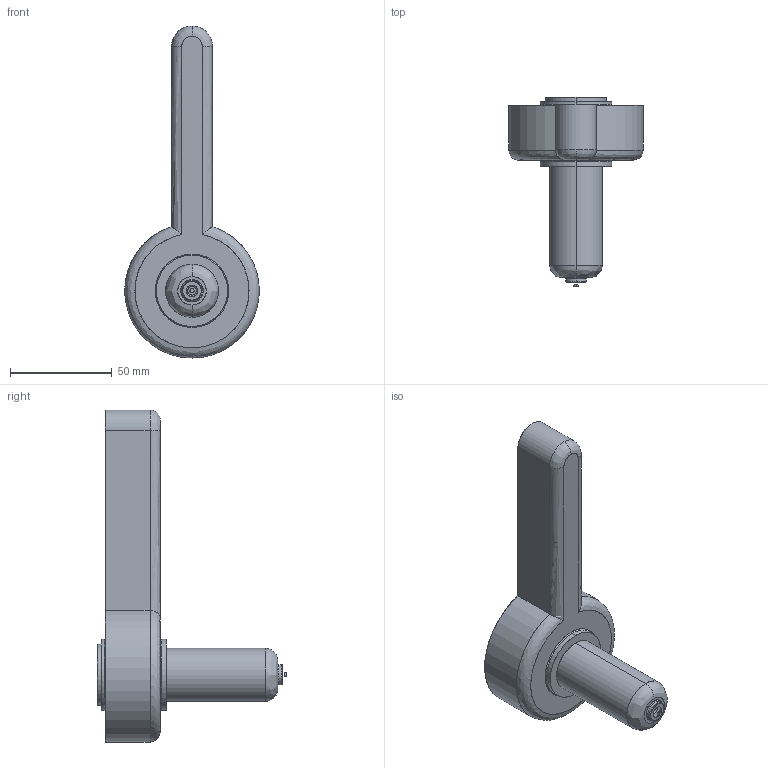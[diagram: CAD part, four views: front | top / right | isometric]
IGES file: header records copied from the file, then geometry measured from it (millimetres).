
Start section: SolidWorks IGES file using analytic representation for surfaces
Global section: file name: C:\Documents and Settings\ws-20\Desktop\TEM\Sede UGER3551-S-A C-59 L-91 Ød-1.9.IGS; native system: SolidWorks 2012; preprocessor: SolidWorks 2012; author: ws-20; date: 120410.085353; units: millimetre
Bounding box: 65.99 x 93.15 x 163 mm (x, y, z)
Surface area: 25472.9 mm2 (no closed solid volume)
Topology: 0 solids, 0 shells, 42 faces, 910 edges, 910 vertices
Faces by surface type: revolution 25, bspline 17
